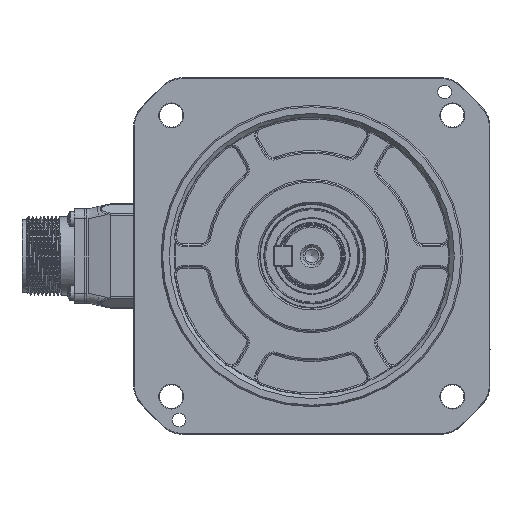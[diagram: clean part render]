
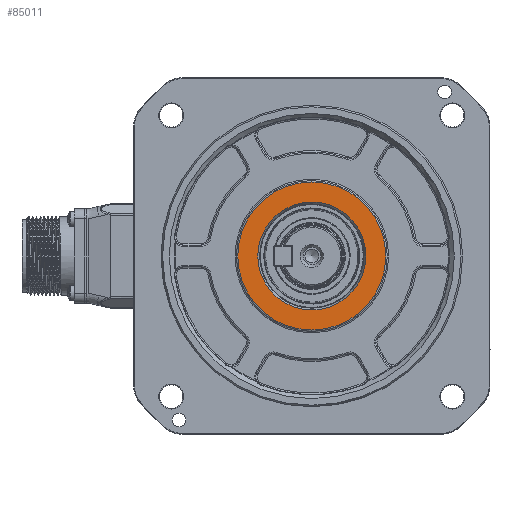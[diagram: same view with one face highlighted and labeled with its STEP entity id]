
A CAD part, left-side view. The second image highlights one B-rep face of the part: STEP entity #85011.
In plain terms, the highlighted planar face has unit normal (-1, 0, 0).
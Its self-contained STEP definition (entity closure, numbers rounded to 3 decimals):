
#880 = VERTEX_POINT ( 'NONE', #20074 ) ;
#3506 = EDGE_LOOP ( 'NONE', ( #86019 ) ) ;
#6265 = CARTESIAN_POINT ( 'NONE',  ( 0.8, 0., 0. ) ) ;
#10091 = DIRECTION ( 'NONE',  ( 1., 0., 0. ) ) ;
#10699 = CARTESIAN_POINT ( 'NONE',  ( 0.8, 27.5, 0. ) ) ;
#17214 = AXIS2_PLACEMENT_3D ( 'NONE', #60957, #50445, #88194 ) ;
#20001 = FACE_OUTER_BOUND ( 'NONE', #3506, .T. ) ;
#20074 = CARTESIAN_POINT ( 'NONE',  ( 0.8, 0., -19.693 ) ) ;
#20594 = FACE_BOUND ( 'NONE', #95584, .T. ) ;
#34771 = DIRECTION ( 'NONE',  ( 0., 0., -1. ) ) ;
#39411 = VERTEX_POINT ( 'NONE', #86452 ) ;
#39797 = PLANE ( 'NONE',  #87915 ) ;
#44049 = DIRECTION ( 'NONE',  ( -1., 0., 0. ) ) ;
#50445 = DIRECTION ( 'NONE',  ( -1., 0., 0. ) ) ;
#58624 = AXIS2_PLACEMENT_3D ( 'NONE', #6265, #44049, #34771 ) ;
#60957 = CARTESIAN_POINT ( 'NONE',  ( 0.8, 0., 0. ) ) ;
#62430 = EDGE_CURVE ( 'NONE', #39411, #39411, #96171, .T. ) ;
#63365 = ORIENTED_EDGE ( 'NONE', *, *, #106275, .F. ) ;
#85011 = ADVANCED_FACE ( 'NONE', ( #20594, #20001 ), #39797, .F. ) ;
#86019 = ORIENTED_EDGE ( 'NONE', *, *, #62430, .T. ) ;
#86452 = CARTESIAN_POINT ( 'NONE',  ( 0.8, 0., -27. ) ) ;
#87442 = DIRECTION ( 'NONE',  ( 0., 0., -1. ) ) ;
#87915 = AXIS2_PLACEMENT_3D ( 'NONE', #10699, #10091, #87442 ) ;
#88194 = DIRECTION ( 'NONE',  ( 0., 0., -1. ) ) ;
#95584 = EDGE_LOOP ( 'NONE', ( #63365 ) ) ;
#96171 = CIRCLE ( 'NONE', #58624, 27. ) ;
#104236 = CIRCLE ( 'NONE', #17214, 19.693 ) ;
#106275 = EDGE_CURVE ( 'NONE', #880, #880, #104236, .T. ) ;
